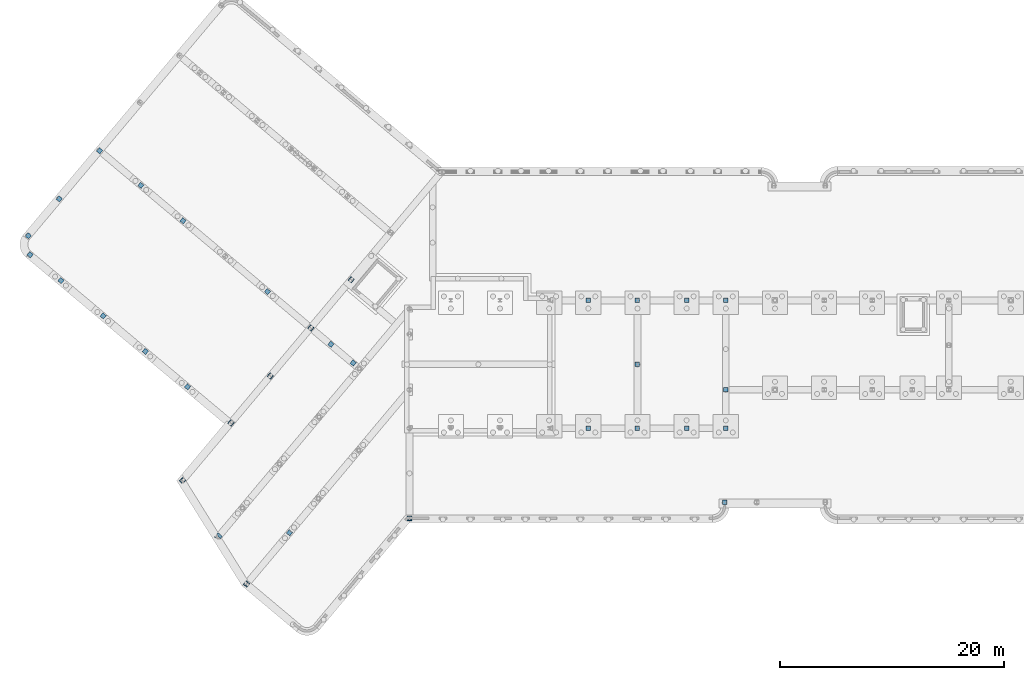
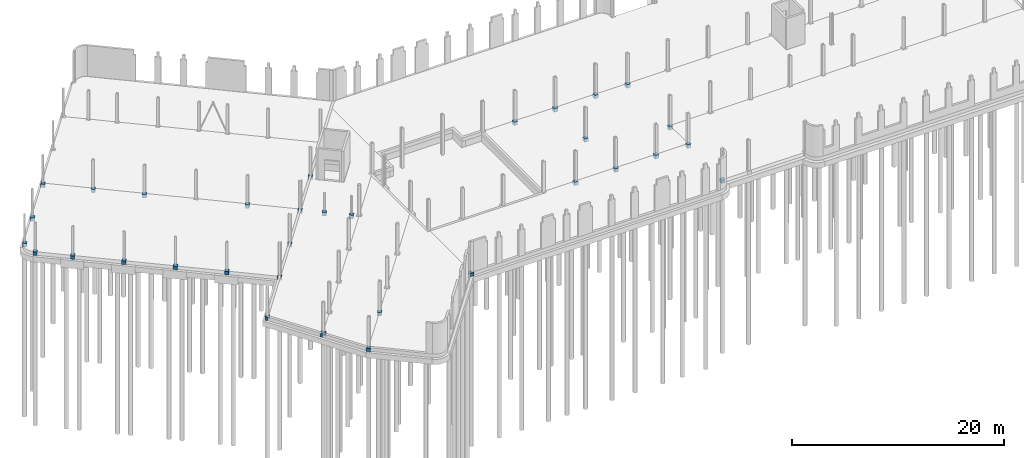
# One storey, part 15 of 26: 33 columns.
"""IFC2X3 building model written with IfcOpenShell, lengths in millimetres."""

from ifc_helpers import new_model, entity, si_unit, converted_unit, derived_unit, direction, frame, frame_2d, origin, place, context, subcontext, project, spatial, polyline, rectangle, outline, extrude, source, transform, mapped, material, type_object, type_shapes, element, save


model = new_model("IFC2X3")

# Units and contexts
model_context = context("Model", 3, precision=0.01, world=origin(), true_north=direction((6.123031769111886e-17, 1.0)))
body_context = subcontext(model_context, "Body", "Model", "MODEL_VIEW")
ifc_project = project(units=[si_unit("LENGTHUNIT", "METRE", prefix="MILLI"), si_unit("AREAUNIT", "SQUARE_METRE"), si_unit("VOLUMEUNIT", "CUBIC_METRE"), derived_unit("MASSDENSITYUNIT", [(si_unit("MASSUNIT", "GRAM", prefix="KILO"), 1), (si_unit("LENGTHUNIT", "METRE"), -3)]), si_unit("MASSUNIT", "GRAM", prefix="KILO"), converted_unit("PLANEANGLEUNIT", "DEGREE", entity("IfcPlaneAngleMeasure", 0.017453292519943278), si_unit("PLANEANGLEUNIT", "RADIAN"), dimensions=[0, 0, 0, 0, 0, 0, 0])], contexts=[model_context])

# Site, building, storey
site_placement = place(None, origin())
site = spatial("IfcSite", under=ifc_project, at=site_placement, Name="Default", CompositionType="ELEMENT")
building_placement = place(site_placement, origin())
building = spatial("IfcBuilding", under=site, at=building_placement, Name="AT constructie", CompositionType="ELEMENT")
storey_placement = place(building_placement, origin())
storey = spatial("IfcBuildingStorey", under=building, at=storey_placement, Name="00 begane grond", CompositionType="ELEMENT", Elevation=-1.0828671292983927e-12)

# Columns
ifc_material = material(Name="f2_beton ihwg_gen")
column_type_1 = type_object("IfcColumnType", Name="opstorting vierkant_gen_lxb 400x400", PredefinedType="COLUMN", material=ifc_material)
shared_shape_1 = source(origin(), body_context, "Body", "SweptSolid", [
    extrude(rectangle(XDim=399.9999999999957, YDim=400.0, at=frame_2d((33.333333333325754, -33.333333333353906), x_axis=(1.0, 0.0))), frame((69480.20796444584, 23237.71017519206, -450.0), z_axis=(0.0, 0.0, 1.0), x_axis=(-1.0, 0.0, 0.0)), (0.0, 0.0, 1.0), 400.0),
])
type_shapes(column_type_1, [shared_shape_1])
column_1_placement = place(storey_placement, origin())
element("IfcColumn", 1, at=column_1_placement, inside=storey, type_object=column_type_1, material=ifc_material, Name="NLRS_16_SC_TLB_opstorting beton_gen_AT:opstorting vierkant_gen_lxb 400x400", ObjectType="NLRS_16_SC_TLB_opstorting beton_gen_AT:opstorting vierkant_gen_lxb 400x400", context=body_context, shape_type="MappedRepresentation", body=[
    mapped(shared_shape_1, transform((0.0, 0.0, 0.0), scale=1.0)),
])
column_type_2 = type_object("IfcColumnType", Name="opstorting vierkant_gen_lxb 400x400", PredefinedType="COLUMN", material=ifc_material)
shared_shape_2 = source(origin(), body_context, "Body", "SweptSolid", [
    extrude(rectangle(XDim=399.9999999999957, YDim=400.0, at=frame_2d((21.857144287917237, -76.42857142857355), x_axis=(1.0, 0.0))), frame((69367.23177039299, 13129.614939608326, -450.0), z_axis=(0.0, 0.0, 1.0), x_axis=(-1.0, 0.0, 0.0)), (0.0, 0.0, 1.0), 400.0),
])
type_shapes(column_type_2, [shared_shape_2])
column_2_placement = place(storey_placement, origin())
element("IfcColumn", 2, at=column_2_placement, inside=storey, type_object=column_type_2, material=ifc_material, Name="NLRS_16_SC_TLB_opstorting beton_gen_AT:opstorting vierkant_gen_lxb 400x400", ObjectType="NLRS_16_SC_TLB_opstorting beton_gen_AT:opstorting vierkant_gen_lxb 400x400", context=body_context, shape_type="MappedRepresentation", body=[
    mapped(shared_shape_2, transform((0.0, 0.0, 0.0), scale=1.0)),
])
column_type_3 = type_object("IfcColumnType", Name="opstorting vierkant_gen_lxb 400x400", PredefinedType="COLUMN", material=ifc_material)
shared_shape_3 = source(origin(), body_context, "Body", "SweptSolid", [
    extrude(rectangle(XDim=399.9999999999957, YDim=400.0, at=frame_2d((-8.668621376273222e-12, -2.815170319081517e-11), x_axis=(1.0, 0.0))), frame((69446.87463111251, 31271.043508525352, -450.0), z_axis=(0.0, 0.0, 1.0), x_axis=(-1.0, 0.0, 0.0)), (0.0, 0.0, 1.0), 400.0),
])
type_shapes(column_type_3, [shared_shape_3])
column_3_placement = place(storey_placement, origin())
element("IfcColumn", 3, at=column_3_placement, inside=storey, type_object=column_type_3, material=ifc_material, Name="NLRS_16_SC_TLB_opstorting beton_gen_AT:opstorting vierkant_gen_lxb 400x400", ObjectType="NLRS_16_SC_TLB_opstorting beton_gen_AT:opstorting vierkant_gen_lxb 400x400", context=body_context, shape_type="MappedRepresentation", body=[
    mapped(shared_shape_3, transform((0.0, 0.0, 0.0), scale=1.0)),
])
column_type_4 = type_object("IfcColumnType", Name="opstorting vierkant_gen_lxb 400x400", PredefinedType="COLUMN", material=ifc_material)
shared_shape_4 = source(origin(), body_context, "Body", "SweptSolid", [
    extrude(rectangle(XDim=399.9999999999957, YDim=400.0, at=frame_2d((-8.668621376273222e-12, -3.248601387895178e-11), x_axis=(1.0, 0.0))), frame((65946.87463111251, 31271.043508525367, -450.0), z_axis=(0.0, 0.0, 1.0), x_axis=(-1.0, 0.0, 0.0)), (0.0, 0.0, 1.0), 400.0),
])
type_shapes(column_type_4, [shared_shape_4])
column_4_placement = place(storey_placement, origin())
element("IfcColumn", 4, at=column_4_placement, inside=storey, type_object=column_type_4, material=ifc_material, Name="NLRS_16_SC_TLB_opstorting beton_gen_AT:opstorting vierkant_gen_lxb 400x400", ObjectType="NLRS_16_SC_TLB_opstorting beton_gen_AT:opstorting vierkant_gen_lxb 400x400", context=body_context, shape_type="MappedRepresentation", body=[
    mapped(shared_shape_4, transform((0.0, 0.0, 0.0), scale=1.0)),
])
column_type_5 = type_object("IfcColumnType", Name="opstorting vierkant_gen_lxb 400x400", PredefinedType="COLUMN", material=ifc_material)
shared_shape_5 = source(origin(), body_context, "Body", "SweptSolid", [
    extrude(rectangle(XDim=399.9999999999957, YDim=400.0, at=frame_2d((0.0, 2.1742607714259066e-12), x_axis=(1.0, 0.0))), frame((65946.8746311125, 19821.04350852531, -450.0), z_axis=(0.0, 0.0, 1.0), x_axis=(-1.0, 0.0, 0.0)), (0.0, 0.0, 1.0), 400.0),
])
type_shapes(column_type_5, [shared_shape_5])
column_5_placement = place(storey_placement, origin())
element("IfcColumn", 5, at=column_5_placement, inside=storey, type_object=column_type_5, material=ifc_material, Name="NLRS_16_SC_TLB_opstorting beton_gen_AT:opstorting vierkant_gen_lxb 400x400", ObjectType="NLRS_16_SC_TLB_opstorting beton_gen_AT:opstorting vierkant_gen_lxb 400x400", context=body_context, shape_type="MappedRepresentation", body=[
    mapped(shared_shape_5, transform((0.0, 0.0, 0.0), scale=1.0)),
])
column_type_6 = type_object("IfcColumnType", Name="opstorting vierkant_gen_lxb 400x400", PredefinedType="COLUMN", material=ifc_material)
shared_shape_6 = source(origin(), body_context, "Body", "SweptSolid", [
    extrude(rectangle(XDim=399.9999999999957, YDim=400.0, at=frame_2d((-33.33333333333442, 33.3333333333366), x_axis=(1.0, 0.0))), frame((69413.54129777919, 19854.376841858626, -450.0), z_axis=(0.0, 0.0, 1.0), x_axis=(-1.0, 0.0, 0.0)), (0.0, 0.0, 1.0), 400.0),
])
type_shapes(column_type_6, [shared_shape_6])
column_6_placement = place(storey_placement, origin())
element("IfcColumn", 6, at=column_6_placement, inside=storey, type_object=column_type_6, material=ifc_material, Name="NLRS_16_SC_TLB_opstorting beton_gen_AT:opstorting vierkant_gen_lxb 400x400", ObjectType="NLRS_16_SC_TLB_opstorting beton_gen_AT:opstorting vierkant_gen_lxb 400x400", context=body_context, shape_type="MappedRepresentation", body=[
    mapped(shared_shape_6, transform((0.0, 0.0, 0.0), scale=1.0)),
])
column_type_7 = type_object("IfcColumnType", Name="opstorting vierkant_gen_lxb 400x400", PredefinedType="COLUMN", material=ifc_material)
shared_shape_7 = source(origin(), body_context, "Body", "SweptSolid", [
    extrude(rectangle(XDim=399.9999999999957, YDim=400.0, at=frame_2d((-8.668621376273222e-12, -6.494360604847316e-12), x_axis=(1.0, 0.0))), frame((61546.87463111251, 19821.04350852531, -450.0), z_axis=(0.0, 0.0, 1.0), x_axis=(-1.0, 0.0, 0.0)), (0.0, 0.0, 1.0), 400.0),
])
type_shapes(column_type_7, [shared_shape_7])
column_7_placement = place(storey_placement, origin())
element("IfcColumn", 7, at=column_7_placement, inside=storey, type_object=column_type_7, material=ifc_material, Name="NLRS_16_SC_TLB_opstorting beton_gen_AT:opstorting vierkant_gen_lxb 400x400", ObjectType="NLRS_16_SC_TLB_opstorting beton_gen_AT:opstorting vierkant_gen_lxb 400x400", context=body_context, shape_type="MappedRepresentation", body=[
    mapped(shared_shape_7, transform((0.0, 0.0, 0.0), scale=1.0)),
])
column_type_8 = type_object("IfcColumnType", Name="opstorting vierkant_gen_lxb 400x400", PredefinedType="COLUMN", material=ifc_material)
shared_shape_8 = source(origin(), body_context, "Body", "SweptSolid", [
    extrude(rectangle(XDim=399.9999999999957, YDim=400.0, at=frame_2d((0.0, 2.1742607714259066e-12), x_axis=(1.0, 0.0))), frame((61546.87463111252, 25546.04350852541, -450.0), z_axis=(0.0, 0.0, 1.0), x_axis=(-1.0, 0.0, 0.0)), (0.0, 0.0, 1.0), 400.0),
])
type_shapes(column_type_8, [shared_shape_8])
column_8_placement = place(storey_placement, origin())
element("IfcColumn", 8, at=column_8_placement, inside=storey, type_object=column_type_8, material=ifc_material, Name="NLRS_16_SC_TLB_opstorting beton_gen_AT:opstorting vierkant_gen_lxb 400x400", ObjectType="NLRS_16_SC_TLB_opstorting beton_gen_AT:opstorting vierkant_gen_lxb 400x400", context=body_context, shape_type="MappedRepresentation", body=[
    mapped(shared_shape_8, transform((0.0, 0.0, 0.0), scale=1.0)),
])
column_type_9 = type_object("IfcColumnType", Name="opstorting vierkant_gen_lxb 400x400", PredefinedType="COLUMN", material=ifc_material)
shared_shape_9 = source(origin(), body_context, "Body", "SweptSolid", [
    extrude(rectangle(XDim=399.9999999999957, YDim=400.0, at=frame_2d((0.0, -4.980904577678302e-11), x_axis=(1.0, 0.0))), frame((61546.874631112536, 31271.0435085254, -450.0), z_axis=(0.0, 0.0, 1.0), x_axis=(-1.0, 0.0, 0.0)), (0.0, 0.0, 1.0), 400.0),
])
type_shapes(column_type_9, [shared_shape_9])
column_9_placement = place(storey_placement, origin())
element("IfcColumn", 9, at=column_9_placement, inside=storey, type_object=column_type_9, material=ifc_material, Name="NLRS_16_SC_TLB_opstorting beton_gen_AT:opstorting vierkant_gen_lxb 400x400", ObjectType="NLRS_16_SC_TLB_opstorting beton_gen_AT:opstorting vierkant_gen_lxb 400x400", context=body_context, shape_type="MappedRepresentation", body=[
    mapped(shared_shape_9, transform((0.0, 0.0, 0.0), scale=1.0)),
])
column_type_10 = type_object("IfcColumnType", Name="opstorting vierkant_gen_lxb 400x400", PredefinedType="COLUMN", material=ifc_material)
shared_shape_10 = source(origin(), body_context, "Body", "SweptSolid", [
    extrude(rectangle(XDim=399.9999999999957, YDim=400.0, at=frame_2d((-8.668621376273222e-12, -5.4143356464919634e-11), x_axis=(1.0, 0.0))), frame((57146.874631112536, 31271.043508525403, -450.0), z_axis=(0.0, 0.0, 1.0), x_axis=(-1.0, 0.0, 0.0)), (0.0, 0.0, 1.0), 400.0),
])
type_shapes(column_type_10, [shared_shape_10])
column_10_placement = place(storey_placement, origin())
element("IfcColumn", 10, at=column_10_placement, inside=storey, type_object=column_type_10, material=ifc_material, Name="NLRS_16_SC_TLB_opstorting beton_gen_AT:opstorting vierkant_gen_lxb 400x400", ObjectType="NLRS_16_SC_TLB_opstorting beton_gen_AT:opstorting vierkant_gen_lxb 400x400", context=body_context, shape_type="MappedRepresentation", body=[
    mapped(shared_shape_10, transform((0.0, 0.0, 0.0), scale=1.0)),
])
column_type_11 = type_object("IfcColumnType", Name="opstorting vierkant_gen_lxb 400x400", PredefinedType="COLUMN", material=ifc_material)
shared_shape_11 = source(origin(), body_context, "Body", "SweptSolid", [
    extrude(rectangle(XDim=399.9999999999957, YDim=400.0, at=frame_2d((0.0, -1.0828671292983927e-11), x_axis=(1.0, 0.0))), frame((57146.87463111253, 19821.043508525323, -450.0), z_axis=(0.0, 0.0, 1.0), x_axis=(-1.0, 0.0, 0.0)), (0.0, 0.0, 1.0), 400.0),
])
type_shapes(column_type_11, [shared_shape_11])
column_11_placement = place(storey_placement, origin())
element("IfcColumn", 11, at=column_11_placement, inside=storey, type_object=column_type_11, material=ifc_material, Name="NLRS_16_SC_TLB_opstorting beton_gen_AT:opstorting vierkant_gen_lxb 400x400", ObjectType="NLRS_16_SC_TLB_opstorting beton_gen_AT:opstorting vierkant_gen_lxb 400x400", context=body_context, shape_type="MappedRepresentation", body=[
    mapped(shared_shape_11, transform((0.0, 0.0, 0.0), scale=1.0)),
])
column_type_12 = type_object("IfcColumnType", Name="opstorting vierkant_gen_lxb 400x400", PredefinedType="COLUMN", material=ifc_material)
shared_shape_12 = source(origin(), body_context, "Body", "SweptSolid", [
    extrude(rectangle(XDim=399.9999999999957, YDim=51.50000000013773, at=frame_2d((8.668621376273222e-12, 5.150000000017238), x_axis=(1.0, 0.0))), frame((41146.874631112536, 11951.943508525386, -450.0), z_axis=(0.0, 0.0, 1.0), x_axis=(-1.0, 0.0, 0.0)), (0.0, 0.0, 1.0), 400.0),
    extrude(outline(polyline([(-45.67102081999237, -228.73174852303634), (52.82897917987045, -228.73174852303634), (52.82897917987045, 114.92699409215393), (-14.315916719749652, 171.26825147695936), (-45.67102081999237, 171.26825147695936), (-45.67102081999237, -228.73174852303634)])), frame((41118.14288258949, 11618.214529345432, -450.0), z_axis=(0.0, 0.0, 1.0), x_axis=(0.0, 1.0, 0.0)), (0.0, 0.0, 1.0), 400.0),
])
type_shapes(column_type_12, [shared_shape_12])
column_12_placement = place(storey_placement, origin())
element("IfcColumn", 12, at=column_12_placement, inside=storey, type_object=column_type_12, material=ifc_material, Name="NLRS_16_SC_TLB_opstorting beton_gen_AT:opstorting vierkant_gen_lxb 400x400", ObjectType="NLRS_16_SC_TLB_opstorting beton_gen_AT:opstorting vierkant_gen_lxb 400x400", context=body_context, shape_type="MappedRepresentation", body=[
    mapped(shared_shape_12, transform((0.0, 0.0, 0.0), scale=1.0)),
])
column_type_13 = type_object("IfcColumnType", Name="opstorting vierkant_gen_lxb 400x400", PredefinedType="COLUMN", material=ifc_material)
shared_shape_13 = source(origin(), body_context, "Body", "SweptSolid", [
    extrude(outline(polyline([(-20.839611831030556, -181.65244389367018), (1.198059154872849, -181.65244389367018), (30.660388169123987, -91.73778053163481), (30.660388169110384, 218.34755610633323), (-20.839611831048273, 218.3475561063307), (-20.8396118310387, 18.347556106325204), (-20.839611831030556, -181.65244389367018)])), frame((26663.99969476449, 6045.344952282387, -450.0), z_axis=(0.0, 0.0, 1.0), x_axis=(-0.6427876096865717, -0.7660444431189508, 0.0)), (0.0, 0.0, 1.0), 399.99999999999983),
    extrude(outline(polyline([(-62.376699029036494, -230.0), (36.12330097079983, -230.0), (36.12330097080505, 120.0), (52.50679611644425, 170.0), (-62.37669902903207, 170.0), (-62.376699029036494, -230.0)])), frame((26451.448774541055, 5810.16461410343, -450.0), z_axis=(0.0, 0.0, 1.0), x_axis=(0.6427876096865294, 0.7660444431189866, 0.0)), (0.0, 0.0, 1.0), 399.9999999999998),
])
type_shapes(column_type_13, [shared_shape_13])
column_13_placement = place(storey_placement, origin())
element("IfcColumn", 13, at=column_13_placement, inside=storey, type_object=column_type_13, material=ifc_material, Name="NLRS_16_SC_TLB_opstorting beton_gen_AT:opstorting vierkant_gen_lxb 400x400", ObjectType="NLRS_16_SC_TLB_opstorting beton_gen_AT:opstorting vierkant_gen_lxb 400x400", context=body_context, shape_type="MappedRepresentation", body=[
    mapped(shared_shape_13, transform((0.0, 0.0, 0.0), scale=1.0)),
])
column_type_14 = type_object("IfcColumnType", Name="opstorting vierkant_gen_lxb 400x400", PredefinedType="COLUMN", material=ifc_material)
shared_shape_14 = source(origin(), body_context, "Body", "SweptSolid", [
    extrude(rectangle(XDim=400.00000000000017, YDim=400.00000000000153, at=frame_2d((3.0411229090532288e-12, -2.7000623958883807e-13), x_axis=(1.0, 0.0))), frame((30406.762566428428, 10477.252320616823, -450.0), z_axis=(0.0, 0.0, 1.0), x_axis=(-0.7660444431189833, 0.642787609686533, 0.0)), (0.0, 0.0, 1.0), 399.99999999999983),
])
type_shapes(column_type_14, [shared_shape_14])
column_14_placement = place(storey_placement, origin())
element("IfcColumn", 14, at=column_14_placement, inside=storey, type_object=column_type_14, material=ifc_material, Name="NLRS_16_SC_TLB_opstorting beton_gen_AT:opstorting vierkant_gen_lxb 400x400", ObjectType="NLRS_16_SC_TLB_opstorting beton_gen_AT:opstorting vierkant_gen_lxb 400x400", context=body_context, shape_type="MappedRepresentation", body=[
    mapped(shared_shape_14, transform((0.0, 0.0, 0.0), scale=1.0)),
])
column_type_15 = type_object("IfcColumnType", Name="opstorting vierkant_gen_lxb 400x400", PredefinedType="COLUMN", material=ifc_material)
shared_shape_15 = source(origin(), body_context, "Body", "SweptSolid", [
    extrude(outline(polyline([(-37.50000000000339, -79.93813160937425), (37.499999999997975, -79.93813160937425), (37.50000000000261, 67.65051025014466), (-37.50000000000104, 92.22575296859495), (-37.50000000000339, -79.93813160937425)])), frame((21042.06443375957, 15126.883067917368, -450.0), z_axis=(0.0, 0.0, 1.0), x_axis=(-0.7660444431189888, 0.6427876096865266, 0.0)), (0.0, 0.0, 1.0), 399.99999999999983),
    extrude(outline(polyline([(-88.48888888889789, -174.25000000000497), (203.9555555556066, -174.2500000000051), (-13.488888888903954, -103.0), (-13.488888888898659, 225.74999999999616), (-88.4888888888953, 225.74999999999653), (-88.48888888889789, -174.25000000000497)])), frame((20738.433682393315, 15191.315643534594, -450.0), z_axis=(0.0, 0.0, 1.0), x_axis=(0.7660444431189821, -0.6427876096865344, 0.0)), (0.0, 0.0, 1.0), 399.99999999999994),
])
type_shapes(column_type_15, [shared_shape_15])
column_15_placement = place(storey_placement, origin())
element("IfcColumn", 15, at=column_15_placement, inside=storey, type_object=column_type_15, material=ifc_material, Name="NLRS_16_SC_TLB_opstorting beton_gen_AT:opstorting vierkant_gen_lxb 400x400", ObjectType="NLRS_16_SC_TLB_opstorting beton_gen_AT:opstorting vierkant_gen_lxb 400x400", context=body_context, shape_type="MappedRepresentation", body=[
    mapped(shared_shape_15, transform((0.0, 0.0, 0.0), scale=1.0)),
])
column_type_16 = type_object("IfcColumnType", Name="opstorting vierkant_gen_lxb 400x400", PredefinedType="COLUMN", material=ifc_material)
shared_shape_16 = source(origin(), body_context, "Body", "SweptSolid", [
    extrude(rectangle(XDim=75.00000000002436, YDim=399.9999999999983, at=frame_2d((-1.3962164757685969e-12, 1.6626700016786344e-12), x_axis=(1.0, 0.0))), frame((25288.440312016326, 20187.516776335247, -450.0), z_axis=(0.0, 0.0, 1.0), x_axis=(-0.7660444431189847, 0.6427876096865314, 0.0)), (0.0, 0.0, 1.0), 399.99999999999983),
    extrude(rectangle(XDim=74.99999999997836, YDim=400.0000000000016, at=frame_2d((7.499999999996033, 25.999999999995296), x_axis=(1.0, 0.0))), frame((25017.018056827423, 20381.326501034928, -450.0), z_axis=(0.0, 0.0, 1.0), x_axis=(0.7660444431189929, -0.6427876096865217, 0.0)), (0.0, 0.0, 1.0), 399.99999999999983),
])
type_shapes(column_type_16, [shared_shape_16])
column_16_placement = place(storey_placement, origin())
element("IfcColumn", 16, at=column_16_placement, inside=storey, type_object=column_type_16, material=ifc_material, Name="NLRS_16_SC_TLB_opstorting beton_gen_AT:opstorting vierkant_gen_lxb 400x400", ObjectType="NLRS_16_SC_TLB_opstorting beton_gen_AT:opstorting vierkant_gen_lxb 400x400", context=body_context, shape_type="MappedRepresentation", body=[
    mapped(shared_shape_16, transform((0.0, 0.0, 0.0), scale=1.0)),
])
column_type_17 = type_object("IfcColumnType", Name="opstorting vierkant_gen_lxb 400x400", PredefinedType="COLUMN", material=ifc_material)
shared_shape_17 = source(origin(), body_context, "Body", "SweptSolid", [
    extrude(rectangle(XDim=75.00000000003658, YDim=399.99999999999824, at=frame_2d((-2.518873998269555e-12, 6.3806737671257e-12), x_axis=(1.0, 0.0))), frame((28820.55822724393, 24396.930991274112, -450.0), z_axis=(0.0, 0.0, 1.0), x_axis=(-0.7660444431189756, 0.6427876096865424, 0.0)), (0.0, 0.0, 1.0), 399.99999999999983),
    extrude(rectangle(XDim=74.99999999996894, YDim=400.0000000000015, at=frame_2d((-1.6555645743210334e-12, -1.3784529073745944e-12), x_axis=(1.0, 0.0))), frame((28571.593783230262, 24605.836964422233, -450.0), z_axis=(0.0, 0.0, 1.0), x_axis=(0.7660444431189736, -0.6427876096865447, 0.0)), (0.0, 0.0, 1.0), 399.99999999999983),
])
type_shapes(column_type_17, [shared_shape_17])
column_17_placement = place(storey_placement, origin())
element("IfcColumn", 17, at=column_17_placement, inside=storey, type_object=column_type_17, material=ifc_material, Name="NLRS_16_SC_TLB_opstorting beton_gen_AT:opstorting vierkant_gen_lxb 400x400", ObjectType="NLRS_16_SC_TLB_opstorting beton_gen_AT:opstorting vierkant_gen_lxb 400x400", context=body_context, shape_type="MappedRepresentation", body=[
    mapped(shared_shape_17, transform((0.0, 0.0, 0.0), scale=1.0)),
])
column_type_18 = type_object("IfcColumnType", Name="opstorting vierkant_gen_lxb 400x400", PredefinedType="COLUMN", material=ifc_material)
shared_shape_18 = source(origin(), body_context, "Body", "SweptSolid", [
    extrude(rectangle(XDim=75.00000000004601, YDim=399.9999999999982, at=frame_2d((3.055333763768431e-12, -2.7000623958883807e-13), x_axis=(1.0, 0.0))), frame((32436.23853173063, 28705.93098381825, -450.0), z_axis=(0.0, 0.0, 1.0), x_axis=(-0.7660444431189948, 0.6427876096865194, 0.0)), (0.0, 0.0, 1.0), 399.99999999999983),
    extrude(rectangle(XDim=74.9999999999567, YDim=400.0000000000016, at=frame_2d((7.500000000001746, -7.915446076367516e-12), x_axis=(1.0, 0.0))), frame((32181.52875439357, 28919.657864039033, -450.0), z_axis=(0.0, 0.0, 1.0), x_axis=(0.7660444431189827, -0.6427876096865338, 0.0)), (0.0, 0.0, 1.0), 399.99999999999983),
])
type_shapes(column_type_18, [shared_shape_18])
column_18_placement = place(storey_placement, origin())
element("IfcColumn", 18, at=column_18_placement, inside=storey, type_object=column_type_18, material=ifc_material, Name="NLRS_16_SC_TLB_opstorting beton_gen_AT:opstorting vierkant_gen_lxb 400x400", ObjectType="NLRS_16_SC_TLB_opstorting beton_gen_AT:opstorting vierkant_gen_lxb 400x400", context=body_context, shape_type="MappedRepresentation", body=[
    mapped(shared_shape_18, transform((0.0, 0.0, 0.0), scale=1.0)),
])
column_type_19 = type_object("IfcColumnType", Name="opstorting vierkant_gen_lxb 400x400", PredefinedType="COLUMN", material=ifc_material)
shared_shape_19 = source(origin(), body_context, "Body", "SweptSolid", [
    extrude(rectangle(XDim=400.0000000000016, YDim=399.99999999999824, at=frame_2d((-3.055333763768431e-12, 2.7000623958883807e-13), x_axis=(1.0, 0.0))), frame((34112.96671416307, 27339.925043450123, -450.0), z_axis=(0.0, 0.0, 1.0), x_axis=(-0.7660444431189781, 0.6427876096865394, 0.0)), (0.0, 0.0, 1.0), 399.99999999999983),
])
type_shapes(column_type_19, [shared_shape_19])
column_19_placement = place(storey_placement, origin())
element("IfcColumn", 19, at=column_19_placement, inside=storey, type_object=column_type_19, material=ifc_material, Name="NLRS_16_SC_TLB_opstorting beton_gen_AT:opstorting vierkant_gen_lxb 400x400", ObjectType="NLRS_16_SC_TLB_opstorting beton_gen_AT:opstorting vierkant_gen_lxb 400x400", context=body_context, shape_type="MappedRepresentation", body=[
    mapped(shared_shape_19, transform((0.0, 0.0, 0.0), scale=1.0)),
])
column_type_20 = type_object("IfcColumnType", Name="opstorting vierkant_gen_lxb 400x400", PredefinedType="COLUMN", material=ifc_material)
shared_shape_20 = source(origin(), body_context, "Body", "SweptSolid", [
    extrude(rectangle(XDim=400.0000000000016, YDim=399.9999999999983, at=frame_2d((2.4158453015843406e-13, 3.055333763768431e-12), x_axis=(1.0, 0.0))), frame((36104.682266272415, 25668.677258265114, -450.0), z_axis=(0.0, 0.0, 1.0), x_axis=(-0.7660444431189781, 0.6427876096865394, 0.0)), (0.0, 0.0, 1.0), 399.99999999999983),
])
type_shapes(column_type_20, [shared_shape_20])
column_20_placement = place(storey_placement, origin())
element("IfcColumn", 20, at=column_20_placement, inside=storey, type_object=column_type_20, material=ifc_material, Name="NLRS_16_SC_TLB_opstorting beton_gen_AT:opstorting vierkant_gen_lxb 400x400", ObjectType="NLRS_16_SC_TLB_opstorting beton_gen_AT:opstorting vierkant_gen_lxb 400x400", context=body_context, shape_type="MappedRepresentation", body=[
    mapped(shared_shape_20, transform((0.0, 0.0, 0.0), scale=1.0)),
])
column_type_21 = type_object("IfcColumnType", Name="opstorting vierkant_gen_lxb 400x400", PredefinedType="COLUMN", material=ifc_material)
shared_shape_21 = source(origin(), body_context, "Body", "SweptSolid", [
    extrude(rectangle(XDim=75.00000000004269, YDim=399.99999999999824, at=frame_2d((-3.055333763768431e-12, 2.7000623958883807e-13), x_axis=(1.0, 0.0))), frame((36051.91883621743, 33014.930976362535, -450.0), z_axis=(0.0, 0.0, 1.0), x_axis=(-0.7660444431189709, 0.6427876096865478, 0.0)), (0.0, 0.0, 1.0), 399.99999999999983),
    extrude(rectangle(XDim=74.99999999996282, YDim=400.0000000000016, at=frame_2d((-1.3891110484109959e-12, 1.6484591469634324e-12), x_axis=(1.0, 0.0))), frame((35802.95439220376, 33223.83694951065, -450.0), z_axis=(0.0, 0.0, 1.0), x_axis=(0.7660444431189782, -0.6427876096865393, 0.0)), (0.0, 0.0, 1.0), 399.9999999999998),
])
type_shapes(column_type_21, [shared_shape_21])
column_21_placement = place(storey_placement, origin())
element("IfcColumn", 21, at=column_21_placement, inside=storey, type_object=column_type_21, material=ifc_material, Name="NLRS_16_SC_TLB_opstorting beton_gen_AT:opstorting vierkant_gen_lxb 400x400", ObjectType="NLRS_16_SC_TLB_opstorting beton_gen_AT:opstorting vierkant_gen_lxb 400x400", context=body_context, shape_type="MappedRepresentation", body=[
    mapped(shared_shape_21, transform((0.0, 0.0, 0.0), scale=1.0)),
])
column_type_22 = type_object("IfcColumnType", Name="opstorting vierkant_gen_lxb 400x400", PredefinedType="COLUMN", material=ifc_material)
shared_shape_22 = source(origin(), body_context, "Body", "SweptSolid", [
    extrude(rectangle(XDim=399.9999999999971, YDim=400.00000000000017, at=frame_2d((-3.5714285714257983, -5.8975047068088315e-12), x_axis=(1.0, 0.0))), frame((13416.449358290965, 44665.42906432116, -450.0), z_axis=(0.0, 0.0, 1.0), x_axis=(-0.7660444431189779, 0.6427876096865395, 0.0)), (0.0, 0.0, 1.0), 399.99999999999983),
])
type_shapes(column_type_22, [shared_shape_22])
column_22_placement = place(storey_placement, origin())
element("IfcColumn", 22, at=column_22_placement, inside=storey, type_object=column_type_22, material=ifc_material, Name="NLRS_16_SC_TLB_opstorting beton_gen_AT:opstorting vierkant_gen_lxb 400x400", ObjectType="NLRS_16_SC_TLB_opstorting beton_gen_AT:opstorting vierkant_gen_lxb 400x400", context=body_context, shape_type="MappedRepresentation", body=[
    mapped(shared_shape_22, transform((0.0, 0.0, 0.0), scale=1.0)),
])
column_type_23 = type_object("IfcColumnType", Name="opstorting vierkant_gen_lxb 400x400", PredefinedType="COLUMN", material=ifc_material)
shared_shape_23 = source(origin(), body_context, "Body", "SweptSolid", [
    extrude(rectangle(XDim=399.9999999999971, YDim=400.00000000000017, at=frame_2d((-37.499999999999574, -1.1368683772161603e-12), x_axis=(1.0, 0.0))), frame((9774.77826019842, 40378.23793710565, -450.0), z_axis=(0.0, 0.0, 1.0), x_axis=(-0.7660444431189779, 0.6427876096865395, 0.0)), (0.0, 0.0, 1.0), 399.99999999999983),
])
type_shapes(column_type_23, [shared_shape_23])
column_23_placement = place(storey_placement, origin())
element("IfcColumn", 23, at=column_23_placement, inside=storey, type_object=column_type_23, material=ifc_material, Name="NLRS_16_SC_TLB_opstorting beton_gen_AT:opstorting vierkant_gen_lxb 400x400", ObjectType="NLRS_16_SC_TLB_opstorting beton_gen_AT:opstorting vierkant_gen_lxb 400x400", context=body_context, shape_type="MappedRepresentation", body=[
    mapped(shared_shape_23, transform((0.0, 0.0, 0.0), scale=1.0)),
])
column_type_24 = type_object("IfcColumnType", Name="opstorting vierkant_gen_lxb 400x400", PredefinedType="COLUMN", material=ifc_material)
shared_shape_24 = source(origin(), body_context, "Body", "SweptSolid", [
    extrude(rectangle(XDim=400.00000000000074, YDim=399.9999999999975, at=frame_2d((-37.499999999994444, 1.7053025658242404e-13), x_axis=(1.0, 0.0))), frame((7010.791538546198, 37084.246831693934, -450.0), z_axis=(0.0, 0.0, 1.0), x_axis=(-0.7660444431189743, 0.6427876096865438, 0.0)), (0.0, 0.0, 1.0), 399.99999999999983),
])
type_shapes(column_type_24, [shared_shape_24])
column_24_placement = place(storey_placement, origin())
element("IfcColumn", 24, at=column_24_placement, inside=storey, type_object=column_type_24, material=ifc_material, Name="NLRS_16_SC_TLB_opstorting beton_gen_AT:opstorting vierkant_gen_lxb 400x400", ObjectType="NLRS_16_SC_TLB_opstorting beton_gen_AT:opstorting vierkant_gen_lxb 400x400", context=body_context, shape_type="MappedRepresentation", body=[
    mapped(shared_shape_24, transform((0.0, 0.0, 0.0), scale=1.0)),
])
column_type_25 = type_object("IfcColumnType", Name="opstorting vierkant_gen_lxb 400x400", PredefinedType="COLUMN", material=ifc_material)
shared_shape_25 = source(origin(), body_context, "Body", "SweptSolid", [
    extrude(rectangle(XDim=400.0000000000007, YDim=399.9999999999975, at=frame_2d((1.3784529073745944e-12, -41.43693402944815), x_axis=(1.0, 0.0))), frame((7174.197035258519, 35326.55251674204, -450.0), z_axis=(0.0, 0.0, 1.0), x_axis=(-0.7660444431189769, 0.6427876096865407, 0.0)), (0.0, 0.0, 1.0), 399.9999999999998),
])
type_shapes(column_type_25, [shared_shape_25])
column_25_placement = place(storey_placement, origin())
element("IfcColumn", 25, at=column_25_placement, inside=storey, type_object=column_type_25, material=ifc_material, Name="NLRS_16_SC_TLB_opstorting beton_gen_AT:opstorting vierkant_gen_lxb 400x400", ObjectType="NLRS_16_SC_TLB_opstorting beton_gen_AT:opstorting vierkant_gen_lxb 400x400", context=body_context, shape_type="MappedRepresentation", body=[
    mapped(shared_shape_25, transform((0.0, 0.0, 0.0), scale=1.0)),
])
column_type_26 = type_object("IfcColumnType", Name="opstorting vierkant_gen_lxb 400x400", PredefinedType="COLUMN", material=ifc_material)
shared_shape_26 = source(origin(), body_context, "Body", "SweptSolid", [
    extrude(rectangle(XDim=399.9999999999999, YDim=399.99999999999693, at=frame_2d((5.6559201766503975e-12, -41.666666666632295), x_axis=(1.0, 0.0))), frame((9931.809361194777, 33012.341136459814, -450.0), z_axis=(0.0, 0.0, 1.0), x_axis=(-0.7660444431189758, 0.642787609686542, 0.0)), (0.0, 0.0, 1.0), 399.99999999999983),
])
type_shapes(column_type_26, [shared_shape_26])
column_26_placement = place(storey_placement, origin())
element("IfcColumn", 26, at=column_26_placement, inside=storey, type_object=column_type_26, material=ifc_material, Name="NLRS_16_SC_TLB_opstorting beton_gen_AT:opstorting vierkant_gen_lxb 400x400", ObjectType="NLRS_16_SC_TLB_opstorting beton_gen_AT:opstorting vierkant_gen_lxb 400x400", context=body_context, shape_type="MappedRepresentation", body=[
    mapped(shared_shape_26, transform((0.0, 0.0, 0.0), scale=1.0)),
])
column_type_27 = type_object("IfcColumnType", Name="opstorting vierkant_gen_lxb 400x400", PredefinedType="COLUMN", material=ifc_material)
shared_shape_27 = source(origin(), body_context, "Body", "SweptSolid", [
    extrude(rectangle(XDim=399.9999999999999, YDim=399.9999999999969, at=frame_2d((-1.3784529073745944e-12, -41.66666666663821), x_axis=(1.0, 0.0))), frame((13708.408465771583, 29843.398220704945, -450.0), z_axis=(0.0, 0.0, 1.0), x_axis=(-0.7660444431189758, 0.642787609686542, 0.0)), (0.0, 0.0, 1.0), 399.99999999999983),
])
type_shapes(column_type_27, [shared_shape_27])
column_27_placement = place(storey_placement, origin())
element("IfcColumn", 27, at=column_27_placement, inside=storey, type_object=column_type_27, material=ifc_material, Name="NLRS_16_SC_TLB_opstorting beton_gen_AT:opstorting vierkant_gen_lxb 400x400", ObjectType="NLRS_16_SC_TLB_opstorting beton_gen_AT:opstorting vierkant_gen_lxb 400x400", context=body_context, shape_type="MappedRepresentation", body=[
    mapped(shared_shape_27, transform((0.0, 0.0, 0.0), scale=1.0)),
])
column_type_28 = type_object("IfcColumnType", Name="opstorting vierkant_gen_lxb 400x400", PredefinedType="COLUMN", material=ifc_material)
shared_shape_28 = source(origin(), body_context, "Body", "SweptSolid", [
    extrude(rectangle(XDim=400.0000000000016, YDim=399.99999999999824, at=frame_2d((-1.7905676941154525e-12, -41.66666666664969), x_axis=(1.0, 0.0))), frame((17485.00757034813, 26674.455304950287, -450.0), z_axis=(0.0, 0.0, 1.0), x_axis=(-0.7660444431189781, 0.6427876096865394, 0.0)), (0.0, 0.0, 1.0), 399.99999999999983),
])
type_shapes(column_type_28, [shared_shape_28])
column_28_placement = place(storey_placement, origin())
element("IfcColumn", 28, at=column_28_placement, inside=storey, type_object=column_type_28, material=ifc_material, Name="NLRS_16_SC_TLB_opstorting beton_gen_AT:opstorting vierkant_gen_lxb 400x400", ObjectType="NLRS_16_SC_TLB_opstorting beton_gen_AT:opstorting vierkant_gen_lxb 400x400", context=body_context, shape_type="MappedRepresentation", body=[
    mapped(shared_shape_28, transform((0.0, 0.0, 0.0), scale=1.0)),
])
column_type_29 = type_object("IfcColumnType", Name="opstorting vierkant_gen_lxb 400x400", PredefinedType="COLUMN", material=ifc_material)
shared_shape_29 = source(origin(), body_context, "Body", "SweptSolid", [
    extrude(rectangle(XDim=400.0000000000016, YDim=399.9999999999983, at=frame_2d((-4.277467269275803e-12, -41.66666666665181), x_axis=(1.0, 0.0))), frame((21261.606674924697, 23505.51238919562, -450.0), z_axis=(0.0, 0.0, 1.0), x_axis=(-0.7660444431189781, 0.6427876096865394, 0.0)), (0.0, 0.0, 1.0), 399.9999999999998),
])
type_shapes(column_type_29, [shared_shape_29])
column_29_placement = place(storey_placement, origin())
element("IfcColumn", 29, at=column_29_placement, inside=storey, type_object=column_type_29, material=ifc_material, Name="NLRS_16_SC_TLB_opstorting beton_gen_AT:opstorting vierkant_gen_lxb 400x400", ObjectType="NLRS_16_SC_TLB_opstorting beton_gen_AT:opstorting vierkant_gen_lxb 400x400", context=body_context, shape_type="MappedRepresentation", body=[
    mapped(shared_shape_29, transform((0.0, 0.0, 0.0), scale=1.0)),
])
column_type_30 = type_object("IfcColumnType", Name="opstorting vierkant_gen_lxb 400x400", PredefinedType="COLUMN", material=ifc_material)
shared_shape_30 = source(origin(), body_context, "Body", "SweptSolid", [
    extrude(rectangle(XDim=400.0000000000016, YDim=399.9999999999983, at=frame_2d((-6.3806737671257e-12, -2.5153212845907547e-12), x_axis=(1.0, 0.0))), frame((20886.203440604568, 38397.56116886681, -450.0), z_axis=(0.0, 0.0, 1.0), x_axis=(-0.7660444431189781, 0.6427876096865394, 0.0)), (0.0, 0.0, 1.0), 399.99999999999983),
])
type_shapes(column_type_30, [shared_shape_30])
column_30_placement = place(storey_placement, origin())
element("IfcColumn", 30, at=column_30_placement, inside=storey, type_object=column_type_30, material=ifc_material, Name="NLRS_16_SC_TLB_opstorting beton_gen_AT:opstorting vierkant_gen_lxb 400x400", ObjectType="NLRS_16_SC_TLB_opstorting beton_gen_AT:opstorting vierkant_gen_lxb 400x400", context=body_context, shape_type="MappedRepresentation", body=[
    mapped(shared_shape_30, transform((0.0, 0.0, 0.0), scale=1.0)),
])
column_type_31 = type_object("IfcColumnType", Name="opstorting vierkant_gen_lxb 400x400", PredefinedType="COLUMN", material=ifc_material)
shared_shape_31 = source(origin(), body_context, "Body", "SweptSolid", [
    extrude(rectangle(XDim=399.99999999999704, YDim=400.00000000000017, at=frame_2d((-1.0516032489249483e-12, -1.2207124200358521e-11), x_axis=(1.0, 0.0))), frame((17109.60433602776, 41566.504084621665, -450.0), z_axis=(0.0, 0.0, 1.0), x_axis=(-0.7660444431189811, 0.6427876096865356, 0.0)), (0.0, 0.0, 1.0), 399.99999999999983),
])
type_shapes(column_type_31, [shared_shape_31])
column_31_placement = place(storey_placement, origin())
element("IfcColumn", 31, at=column_31_placement, inside=storey, type_object=column_type_31, material=ifc_material, Name="NLRS_16_SC_TLB_opstorting beton_gen_AT:opstorting vierkant_gen_lxb 400x400", ObjectType="NLRS_16_SC_TLB_opstorting beton_gen_AT:opstorting vierkant_gen_lxb 400x400", context=body_context, shape_type="MappedRepresentation", body=[
    mapped(shared_shape_31, transform((0.0, 0.0, 0.0), scale=1.0)),
])
column_type_32 = type_object("IfcColumnType", Name="opstorting vierkant_gen_lxb 500x500", PredefinedType="COLUMN", material=ifc_material)
shared_shape_32 = source(origin(), body_context, "Body", "SweptSolid", [
    extrude(outline(polyline([(-96.96264120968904, -250.0), (63.526486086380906, -250.0), (227.3614375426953, 250.0), (-96.96264120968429, 250.0), (-96.9626412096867, 0.0), (-96.96264120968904, -250.0)])), frame((24145.936140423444, 10250.00572971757, -450.0), z_axis=(0.0, 0.0, 1.0), x_axis=(-0.642787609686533, -0.7660444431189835, 0.0)), (0.0, 0.0, 1.0), 399.9999999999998),
    extrude(outline(polyline([(-155.70839547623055, -24.210752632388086), (89.75390018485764, -24.210752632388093), (65.95449529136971, 48.42150526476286), (-155.70839547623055, -24.210752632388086)])), frame((23771.296451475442, 10071.496162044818, -450.0), z_axis=(0.0, 0.0, 1.0), x_axis=(-0.527809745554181, 0.8493626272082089, 0.0)), (0.0, 0.0, 1.0), 399.99999999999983),
])
type_shapes(column_type_32, [shared_shape_32])
column_32_placement = place(storey_placement, origin())
element("IfcColumn", 32, at=column_32_placement, inside=storey, type_object=column_type_32, material=ifc_material, Name="NLRS_16_SC_TLB_opstorting beton_gen_AT:opstorting vierkant_gen_lxb 500x500", ObjectType="NLRS_16_SC_TLB_opstorting beton_gen_AT:opstorting vierkant_gen_lxb 500x500", context=body_context, shape_type="MappedRepresentation", body=[
    mapped(shared_shape_32, transform((0.0, 0.0, 0.0), scale=1.0)),
])
column_type_33 = type_object("IfcColumnType", Name="opstorting vierkant_gen_lxb 400x400", PredefinedType="COLUMN", material=ifc_material)
shared_shape_33 = source(origin(), body_context, "Body", "SweptSolid", [
    extrude(rectangle(XDim=400.0000000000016, YDim=399.9999999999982, at=frame_2d((2.4158453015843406e-13, 3.069544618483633e-12), x_axis=(1.0, 0.0))), frame((28439.40164975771, 32059.675337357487, -450.0), z_axis=(0.0, 0.0, 1.0), x_axis=(-0.7660444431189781, 0.6427876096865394, 0.0)), (0.0, 0.0, 1.0), 399.99999999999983),
])
type_shapes(column_type_33, [shared_shape_33])
column_33_placement = place(storey_placement, origin())
element("IfcColumn", 33, at=column_33_placement, inside=storey, type_object=column_type_33, material=ifc_material, Name="NLRS_16_SC_TLB_opstorting beton_gen_AT:opstorting vierkant_gen_lxb 400x400", ObjectType="NLRS_16_SC_TLB_opstorting beton_gen_AT:opstorting vierkant_gen_lxb 400x400", context=body_context, shape_type="MappedRepresentation", body=[
    mapped(shared_shape_33, transform((0.0, 0.0, 0.0), scale=1.0)),
])

save(model, "model.ifc")
